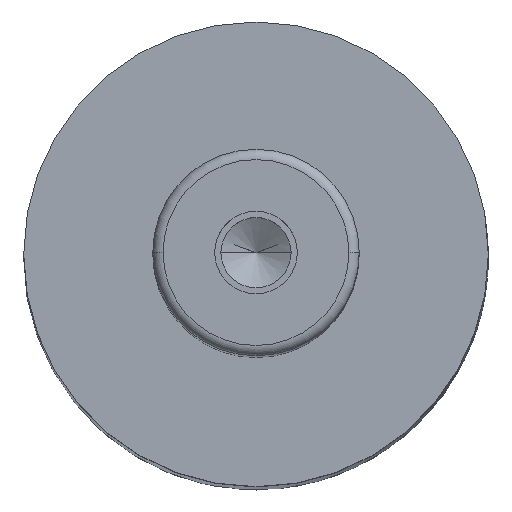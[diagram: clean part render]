
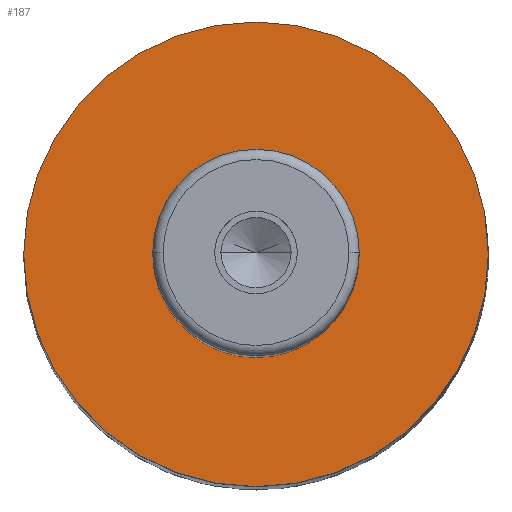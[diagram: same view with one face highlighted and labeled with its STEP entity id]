
A CAD part, top view. The second image highlights one B-rep face of the part: STEP entity #187.
In plain terms, the highlighted planar face has unit normal (0, 0, 1).
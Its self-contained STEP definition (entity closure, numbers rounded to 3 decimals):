
#107=PLANE('',#989);
#130=FACE_BOUND('',#298,.T.);
#131=FACE_BOUND('',#299,.T.);
#187=ADVANCED_FACE('',(#130,#131),#107,.T.);
#298=EDGE_LOOP('',(#463,#464));
#299=EDGE_LOOP('',(#465,#466));
#367=CIRCLE('',#983,10.);
#368=CIRCLE('',#985,10.);
#369=CIRCLE('',#987,22.5);
#370=CIRCLE('',#988,22.5);
#463=ORIENTED_EDGE('',*,*,#758,.F.);
#464=ORIENTED_EDGE('',*,*,#759,.F.);
#465=ORIENTED_EDGE('',*,*,#757,.T.);
#466=ORIENTED_EDGE('',*,*,#755,.T.);
#670=VERTEX_POINT('',#1421);
#671=VERTEX_POINT('',#1423);
#672=VERTEX_POINT('',#1429);
#673=VERTEX_POINT('',#1430);
#755=EDGE_CURVE('',#671,#670,#367,.T.);
#757=EDGE_CURVE('',#670,#671,#368,.T.);
#758=EDGE_CURVE('',#672,#673,#369,.T.);
#759=EDGE_CURVE('',#673,#672,#370,.T.);
#983=AXIS2_PLACEMENT_3D('',#1422,#1137,#1138);
#985=AXIS2_PLACEMENT_3D('',#1426,#1142,#1143);
#987=AXIS2_PLACEMENT_3D('',#1428,#1146,#1147);
#988=AXIS2_PLACEMENT_3D('',#1431,#1148,#1149);
#989=AXIS2_PLACEMENT_3D('',#1432,#1150,#1151);
#1137=DIRECTION('',(0.,0.,-1.));
#1138=DIRECTION('',(0.,1.,0.));
#1142=DIRECTION('',(0.,0.,-1.));
#1143=DIRECTION('',(0.,-1.,0.));
#1146=DIRECTION('',(0.,0.,-1.));
#1147=DIRECTION('',(0.,1.,0.));
#1148=DIRECTION('',(0.,0.,-1.));
#1149=DIRECTION('',(0.,-1.,0.));
#1150=DIRECTION('',(0.,0.,1.));
#1151=DIRECTION('',(0.,-1.,0.));
#1421=CARTESIAN_POINT('',(-10.,0.,183.));
#1422=CARTESIAN_POINT('',(0.,0.,183.));
#1423=CARTESIAN_POINT('',(10.,0.,183.));
#1426=CARTESIAN_POINT('',(0.,0.,183.));
#1428=CARTESIAN_POINT('',(0.,0.,183.));
#1429=CARTESIAN_POINT('',(22.5,0.,183.));
#1430=CARTESIAN_POINT('',(-22.5,0.,183.));
#1431=CARTESIAN_POINT('',(0.,0.,183.));
#1432=CARTESIAN_POINT('',(0.,0.,183.));
